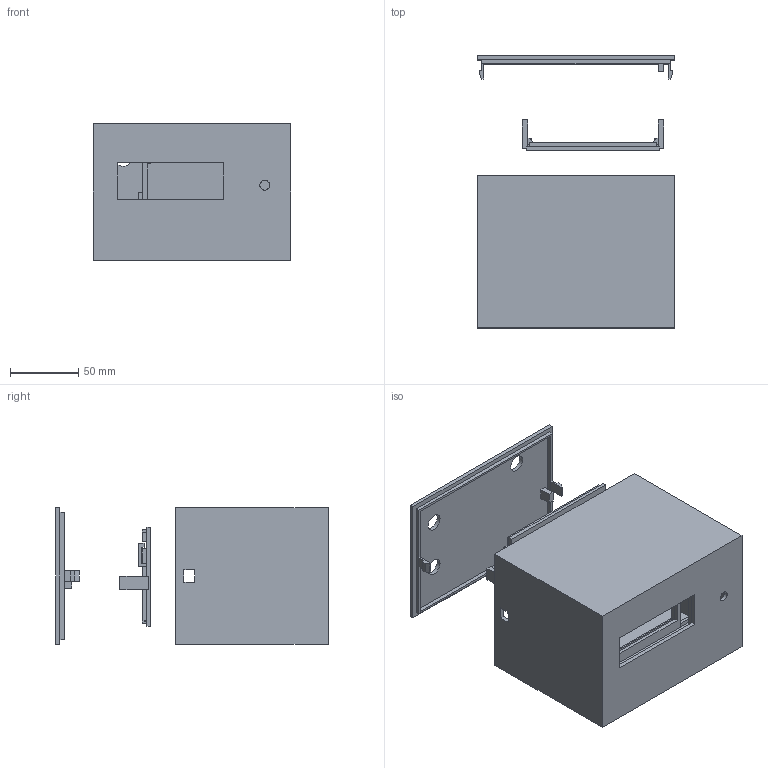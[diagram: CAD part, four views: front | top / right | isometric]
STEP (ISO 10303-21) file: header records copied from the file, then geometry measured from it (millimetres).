
FILE_DESCRIPTION(('Open CASCADE Model'),'2;1');
FILE_NAME('Open CASCADE Shape Model','2026-11-04T20:36:25',('Author'),( 'Open CASCADE'),'Open CASCADE STEP processor 7.8','Open CASCADE 7.8' ,'Unknown');
FILE_SCHEMA(('AUTOMOTIVE_DESIGN { 1 0 10303 214 1 1 1 1 }'));
Length unit declared in the file: millimetre
Products named in the file (4): Boitier_3_pieces_vue_eclatee; 01_Coque_supports_et_clips_integres; 02_Berceau_B_et_clips_integres; 03_Panneau_arriere_et_clips_integres
Assembly tree (3 placements, depth 2):
  Boitier_3_pieces_vue_eclatee
    01_Coque_supports_et_clips_integres
    02_Berceau_B_et_clips_integres
    03_Panneau_arriere_et_clips_integres
Bounding box: 145 x 200 x 100 mm (x, y, z)
Volume: 272714.7 mm3; surface area: 202363.5 mm2
Topology: 3 solids, 3 shells, 329 faces, 927 edges, 616 vertices
Faces by surface type: plane 324, cylinder 5
Full cylindrical faces by diameter (mm): 7.2 x1, 12.4 x1, 12.5 x2, 16 x1
Entity records: 22633 total; most frequent: CARTESIAN_POINT 3730, DIRECTION 3457, LINE 2761, VECTOR 2761, ORIENTED_EDGE 1854, PCURVE 1854, DEFINITIONAL_REPRESENTATION 1854, EDGE_CURVE 927
